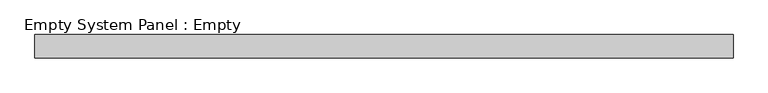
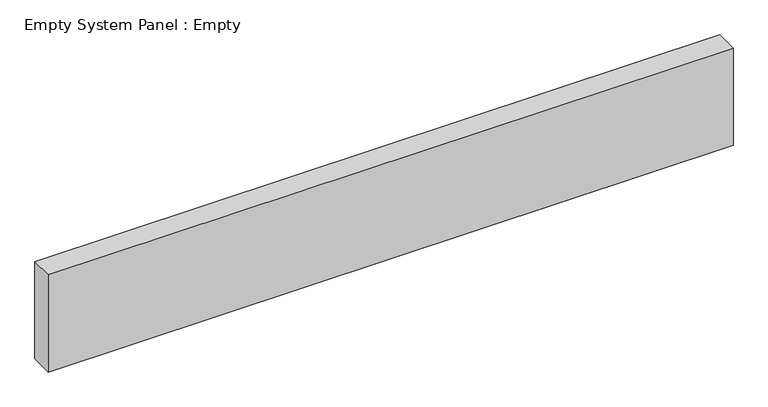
"""IFC4 building model written with IfcOpenShell, lengths in millimetres: plate geometry, Empty System Panel : Empty."""

from ifc_helpers import new_model, si_unit, origin, origin_with_axes, place, context, project, spatial, polyline, outline, extrude, source, transform, mapped, element, save


def empty_system_panel_empty_1fdba460(model_context):
    return source(origin(), model_context, "Body", "SweptSolid", [
        extrude(outline(polyline([(1500.0, -50.0), (-1500.0, -50.0), (-1500.0, 50.0), (1500.0, 50.0), (1500.0, -50.0)])), origin_with_axes(), (0.0, 0.0, 1.0), 450.0),
    ])


if __name__ == "__main__":
    model = new_model("IFC4")
    model_context = context("Model", 3, world=origin())
    ifc_project = project(units=[si_unit("LENGTHUNIT", "METRE", prefix="MILLI")], contexts=[model_context])
    site = spatial("IfcSite", under=ifc_project)
    building = spatial("IfcBuilding", under=site)
    placement = place(None, origin())
    empty_system_panel_empty_shape = empty_system_panel_empty_1fdba460(model_context)
    element("IfcPlate", 1, ObjectType="Empty System Panel : Empty", at=placement, inside=building, context=model_context, shape_type="MappedRepresentation", body=[
        mapped(empty_system_panel_empty_shape, transform((0.0, 0.0, 0.0), x_axis=(1.0, 0.0, 0.0), y_axis=(0.0, 1.0, 0.0), z_axis=(0.0, 0.0, 1.0))),
    ])
    save(model, "model.ifc")
